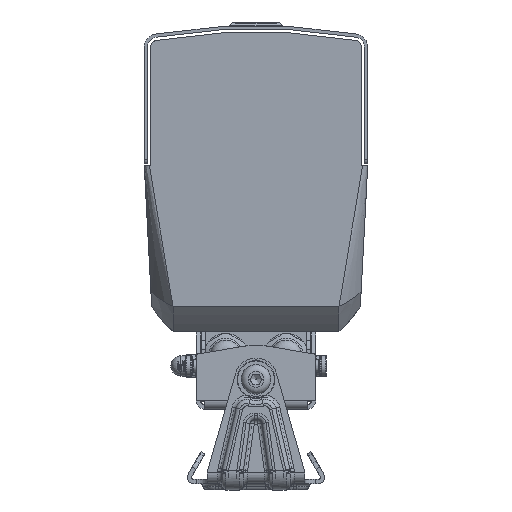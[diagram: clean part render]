
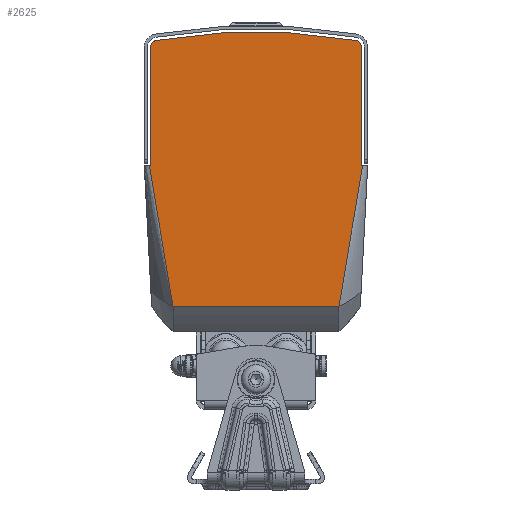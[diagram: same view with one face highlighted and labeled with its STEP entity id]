
A CAD part, front view. The second image highlights one B-rep face of the part: STEP entity #2625.
In plain terms, the highlighted planar face has unit normal (0, -0.999, -0.035).
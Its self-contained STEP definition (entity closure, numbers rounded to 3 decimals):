
#120 = CARTESIAN_POINT ( 'NONE',  ( 49.504, -289.644, -10.186 ) ) ;
#327 = DIRECTION ( 'NONE',  ( 0.999, 0.002, -0.052 ) ) ;
#2625 = ADVANCED_FACE ( 'NONE', ( #51608 ), #53360, .F. ) ;
#3538 = B_SPLINE_CURVE_WITH_KNOTS ( 'NONE', 3,
 ( #60890, #20423, #41334, #47109 ),
 .UNSPECIFIED., .F., .F.,
 ( 4, 4 ),
 ( 0., 1. ),
 .UNSPECIFIED. ) ;
#4043 = DIRECTION ( 'NONE',  ( 1., 0., 0. ) ) ;
#4913 = LINE ( 'NONE', #31214, #20059 ) ;
#4995 = CARTESIAN_POINT ( 'NONE',  ( -49.504, -289.702, -8.529 ) ) ;
#5714 = VERTEX_POINT ( 'NONE', #30928 ) ;
#5997 = EDGE_CURVE ( 'NONE', #63519, #70805, #27930, .T. ) ;
#6473 = VERTEX_POINT ( 'NONE', #64795 ) ;
#7042 = CARTESIAN_POINT ( 'NONE',  ( 50.103, -287.7, -65.874 ) ) ;
#8061 = VECTOR ( 'NONE', #65578, 1000. ) ;
#11334 = CARTESIAN_POINT ( 'NONE',  ( -49.504, -284.971, -144. ) ) ;
#12225 = ORIENTED_EDGE ( 'NONE', *, *, #75411, .T. ) ;
#13227 = CARTESIAN_POINT ( 'NONE',  ( -48.13, -287.879, -60.726 ) ) ;
#13351 = VERTEX_POINT ( 'NONE', #61586 ) ;
#15829 = CARTESIAN_POINT ( 'NONE',  ( 49.504, -284.971, -144. ) ) ;
#16845 = CARTESIAN_POINT ( 'NONE',  ( -56.582, -287.688, -66.214 ) ) ;
#17563 = LINE ( 'NONE', #15829, #46628 ) ;
#19351 = EDGE_CURVE ( 'NONE', #58124, #31732, #81354, .T. ) ;
#19622 = VECTOR ( 'NONE', #327, 1000. ) ;
#20059 = VECTOR ( 'NONE', #4043, 1000. ) ;
#20423 = CARTESIAN_POINT ( 'NONE',  ( -43.725, -286.155, -110.118 ) ) ;
#23393 = ORIENTED_EDGE ( 'NONE', *, *, #50112, .T. ) ;
#26505 = CARTESIAN_POINT ( 'NONE',  ( 49.504, -289.702, -8.529 ) ) ;
#27930 =( BOUNDED_CURVE ( )  B_SPLINE_CURVE ( 3, ( #87070, #45777, #46196, #51560 ),
 .UNSPECIFIED., .F., .T. ) 
 B_SPLINE_CURVE_WITH_KNOTS ( ( 4, 4 ),
 ( 2.972, 3.311 ),
 .UNSPECIFIED. ) 
 CURVE ( )  GEOMETRIC_REPRESENTATION_ITEM ( )  RATIONAL_B_SPLINE_CURVE ( ( 1., 0.99, 0.99, 1. ) ) 
 REPRESENTATION_ITEM ( '' )  );
#30229 = DIRECTION ( 'NONE',  ( -0.999, 0.002, -0.052 ) ) ;
#30928 = CARTESIAN_POINT ( 'NONE',  ( -50.103, -287.7, -65.874 ) ) ;
#31214 = CARTESIAN_POINT ( 'NONE',  ( -52.5, -285.39, -132. ) ) ;
#31732 = VERTEX_POINT ( 'NONE', #77416 ) ;
#33319 = CARTESIAN_POINT ( 'NONE',  ( 43.723, -286.154, -110.129 ) ) ;
#34055 = CARTESIAN_POINT ( 'NONE',  ( 49.504, -289.644, -10.186 ) ) ;
#34383 = ORIENTED_EDGE ( 'NONE', *, *, #19351, .T. ) ;
#34881 = EDGE_CURVE ( 'NONE', #77567, #70805, #65552, .T. ) ;
#36607 = VERTEX_POINT ( 'NONE', #40850 ) ;
#40850 = CARTESIAN_POINT ( 'NONE',  ( 49.504, -287.701, -65.843 ) ) ;
#41023 = ORIENTED_EDGE ( 'NONE', *, *, #5997, .F. ) ;
#41334 = CARTESIAN_POINT ( 'NONE',  ( -47.422, -286.924, -88.099 ) ) ;
#41567 = EDGE_CURVE ( 'NONE', #82535, #13351, #63817, .T. ) ;
#41896 = ORIENTED_EDGE ( 'NONE', *, *, #49814, .F. ) ;
#42116 = CARTESIAN_POINT ( 'NONE',  ( 39., -285.39, -132. ) ) ;
#42615 = CARTESIAN_POINT ( 'NONE',  ( -46.803, -289.756, -6.983 ) ) ;
#44260 = EDGE_CURVE ( 'NONE', #13351, #5714, #70657, .T. ) ;
#44678 = DIRECTION ( 'NONE',  ( 0., -0.035, 0.999 ) ) ;
#45777 = CARTESIAN_POINT ( 'NONE',  ( -15.752, -289.942, -1.66 ) ) ;
#46196 = CARTESIAN_POINT ( 'NONE',  ( 15.752, -289.942, -1.66 ) ) ;
#46628 = VECTOR ( 'NONE', #44678, 1000. ) ;
#47109 = CARTESIAN_POINT ( 'NONE',  ( -50.103, -287.7, -65.874 ) ) ;
#47537 = ORIENTED_EDGE ( 'NONE', *, *, #41567, .T. ) ;
#48927 = ORIENTED_EDGE ( 'NONE', *, *, #34881, .T. ) ;
#49455 = AXIS2_PLACEMENT_3D ( 'NONE', #79619, #78736, #58289 ) ;
#49814 = EDGE_CURVE ( 'NONE', #36607, #31732, #74145, .T. ) ;
#50112 = EDGE_CURVE ( 'NONE', #36607, #77567, #17563, .T. ) ;
#50567 = CARTESIAN_POINT ( 'NONE',  ( -49.504, -289.644, -10.186 ) ) ;
#51560 = CARTESIAN_POINT ( 'NONE',  ( 46.803, -289.756, -6.983 ) ) ;
#51608 = FACE_OUTER_BOUND ( 'NONE', #59164, .T. ) ;
#52011 = EDGE_CURVE ( 'NONE', #6473, #5714, #3538, .T. ) ;
#53018 = CARTESIAN_POINT ( 'NONE',  ( -48.436, -289.746, -7.263 ) ) ;
#53132 = CARTESIAN_POINT ( 'NONE',  ( 46.803, -289.756, -6.983 ) ) ;
#53360 = PLANE ( 'NONE',  #49455 ) ;
#54443 = CARTESIAN_POINT ( 'NONE',  ( 48.436, -289.746, -7.263 ) ) ;
#57386 = ORIENTED_EDGE ( 'NONE', *, *, #52011, .F. ) ;
#58124 = VERTEX_POINT ( 'NONE', #42116 ) ;
#58289 = DIRECTION ( 'NONE',  ( 0., -0.035, 0.999 ) ) ;
#59164 = EDGE_LOOP ( 'NONE', ( #23393, #48927, #41023, #79934, #47537, #67881, #57386, #12225, #34383, #41896 ) ) ;
#60890 = CARTESIAN_POINT ( 'NONE',  ( -39., -285.39, -132. ) ) ;
#61586 = CARTESIAN_POINT ( 'NONE',  ( -49.504, -287.701, -65.843 ) ) ;
#63519 = VERTEX_POINT ( 'NONE', #42615 ) ;
#63817 = LINE ( 'NONE', #11334, #8061 ) ;
#64795 = CARTESIAN_POINT ( 'NONE',  ( -39., -285.39, -132. ) ) ;
#65552 =( BOUNDED_CURVE ( )  B_SPLINE_CURVE ( 3, ( #34055, #26505, #54443, #53132 ),
 .UNSPECIFIED., .F., .T. ) 
 B_SPLINE_CURVE_WITH_KNOTS ( ( 4, 4 ),
 ( 1.571, 2.972 ),
 .UNSPECIFIED. ) 
 CURVE ( )  GEOMETRIC_REPRESENTATION_ITEM ( )  RATIONAL_B_SPLINE_CURVE ( ( 1., 0.843, 0.843, 1. ) ) 
 REPRESENTATION_ITEM ( '' )  );
#65578 = DIRECTION ( 'NONE',  ( 0., 0.035, -0.999 ) ) ;
#66349 = CARTESIAN_POINT ( 'NONE',  ( -46.803, -289.756, -6.983 ) ) ;
#67678 = CARTESIAN_POINT ( 'NONE',  ( -49.504, -289.644, -10.186 ) ) ;
#67800 = VECTOR ( 'NONE', #30229, 1000. ) ;
#67881 = ORIENTED_EDGE ( 'NONE', *, *, #44260, .T. ) ;
#67946 = CARTESIAN_POINT ( 'NONE',  ( 39., -285.39, -132. ) ) ;
#70657 = LINE ( 'NONE', #16845, #67800 ) ;
#70805 = VERTEX_POINT ( 'NONE', #84963 ) ;
#74145 = LINE ( 'NONE', #13227, #19622 ) ;
#75062 = CARTESIAN_POINT ( 'NONE',  ( 47.424, -286.924, -88.088 ) ) ;
#75411 = EDGE_CURVE ( 'NONE', #6473, #58124, #4913, .T. ) ;
#77416 = CARTESIAN_POINT ( 'NONE',  ( 50.103, -287.7, -65.874 ) ) ;
#77567 = VERTEX_POINT ( 'NONE', #120 ) ;
#78736 = DIRECTION ( 'NONE',  ( 0., 0.999, 0.035 ) ) ;
#79619 = CARTESIAN_POINT ( 'NONE',  ( -52.5, -284.971, -144. ) ) ;
#79934 = ORIENTED_EDGE ( 'NONE', *, *, #87918, .T. ) ;
#81354 = B_SPLINE_CURVE_WITH_KNOTS ( 'NONE', 3,
 ( #67946, #33319, #75062, #7042 ),
 .UNSPECIFIED., .F., .F.,
 ( 4, 4 ),
 ( 0., 1. ),
 .UNSPECIFIED. ) ;
#82535 = VERTEX_POINT ( 'NONE', #50567 ) ;
#84449 =( BOUNDED_CURVE ( )  B_SPLINE_CURVE ( 3, ( #66349, #53018, #4995, #67678 ),
 .UNSPECIFIED., .F., .T. ) 
 B_SPLINE_CURVE_WITH_KNOTS ( ( 4, 4 ),
 ( 3.311, 4.712 ),
 .UNSPECIFIED. ) 
 CURVE ( )  GEOMETRIC_REPRESENTATION_ITEM ( )  RATIONAL_B_SPLINE_CURVE ( ( 1., 0.843, 0.843, 1. ) ) 
 REPRESENTATION_ITEM ( '' )  );
#84963 = CARTESIAN_POINT ( 'NONE',  ( 46.803, -289.756, -6.983 ) ) ;
#87070 = CARTESIAN_POINT ( 'NONE',  ( -46.803, -289.756, -6.983 ) ) ;
#87918 = EDGE_CURVE ( 'NONE', #63519, #82535, #84449, .T. ) ;
